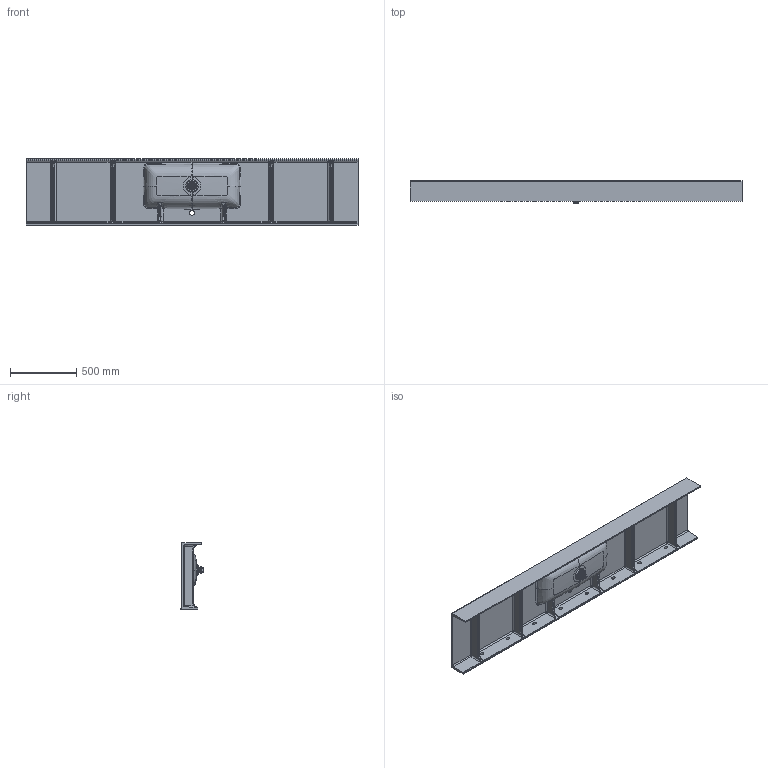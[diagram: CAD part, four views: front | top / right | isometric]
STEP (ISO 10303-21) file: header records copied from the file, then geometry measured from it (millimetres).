
FILE_DESCRIPTION (( 'STEP AP203' ), '1' );
FILE_NAME ('MESA70-P.STEP', '2021-09-20T05:37:17', ( '' ), ( '' ), 'SwSTEP 2.0', 'SolidWorks 2020', '' );
FILE_SCHEMA (( 'CONFIG_CONTROL_DESIGN' ));
Products named in the file (1): MESA70-P
Bounding box: 2500 x 166.26 x 500 mm (x, y, z)
Volume: 29101173.7 mm3; surface area: 4265042.3 mm2
Topology: 8 solids, 8 shells, 581 faces, 1536 edges, 952 vertices
Faces by surface type: cylinder 242, bspline 121, plane 117, torus 37, cone 32, sphere 32
Entity records: 100611 total; most frequent: CARTESIAN_POINT 87435, ORIENTED_EDGE 3048, DIRECTION 2445, EDGE_CURVE 1524, VERTEX_POINT 952, AXIS2_PLACEMENT_3D 952, EDGE_LOOP 630, ADVANCED_FACE 581
